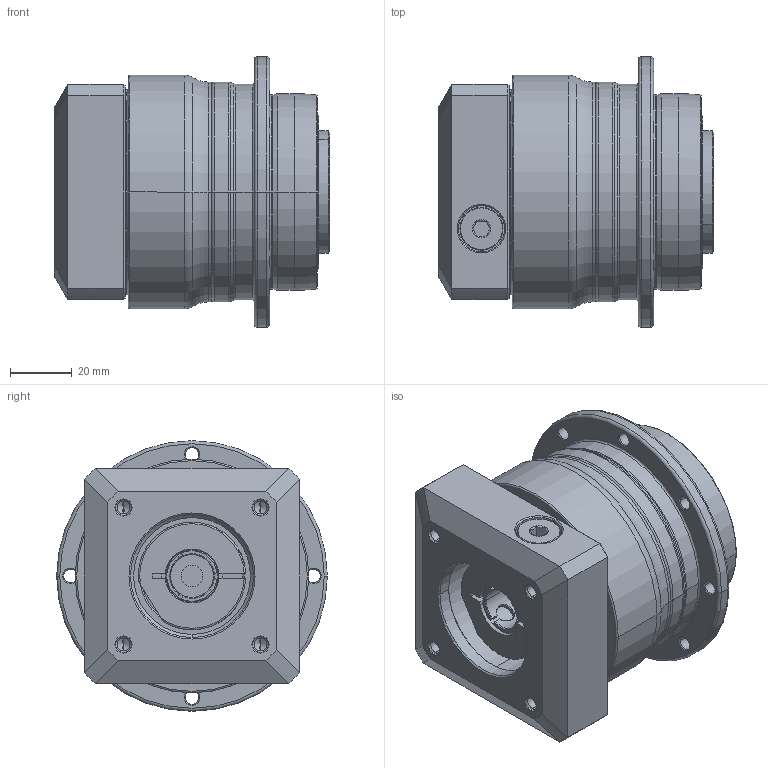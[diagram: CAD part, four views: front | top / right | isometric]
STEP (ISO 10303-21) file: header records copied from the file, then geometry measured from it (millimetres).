
FILE_DESCRIPTION((''),'2;1');
FILE_NAME('AH064_1ST_14-P0409300101_ASM','2016-07-21T',('d00435'),(''),'PRO/ENGINEER BY PARAMETRIC TECHNOLOGY CORPORATION, 2008410','PRO/ENGINEER BY PARAMETRIC TECHNOLOGY CORPORATION, 2008410','');
FILE_SCHEMA(('CONFIG_CONTROL_DESIGN'));
Length unit declared in the file: millimetre
Products named in the file (8): P0255200003; P0359200003; P1318200201; P0409300101; P0503300005; P0912202001; 21711410012; AH064_1ST_14-P0409300101_ASM
Assembly tree (7 placements, depth 2):
  AH064_1ST_14-P0409300101_ASM
    P0255200003
    P0359200003
    P1318200201
    P0409300101
    P0503300005
    P0912202001
    21711410012
Bounding box: 89.5 x 88 x 88 mm (x, y, z)
Volume: 319144.8 mm3; surface area: 81427.8 mm2
Topology: 8 solids, 30 shells, 562 faces, 1302 edges, 790 vertices
Faces by surface type: cylinder 228, cone 152, plane 110, torus 58, bspline 14
Entity records: 20346 total; most frequent: CARTESIAN_POINT 7229, DIRECTION 2987, ORIENTED_EDGE 2432, AXIS2_PLACEMENT_3D 1268, EDGE_CURVE 1260, VERTEX_POINT 790, CIRCLE 695, EDGE_LOOP 668
